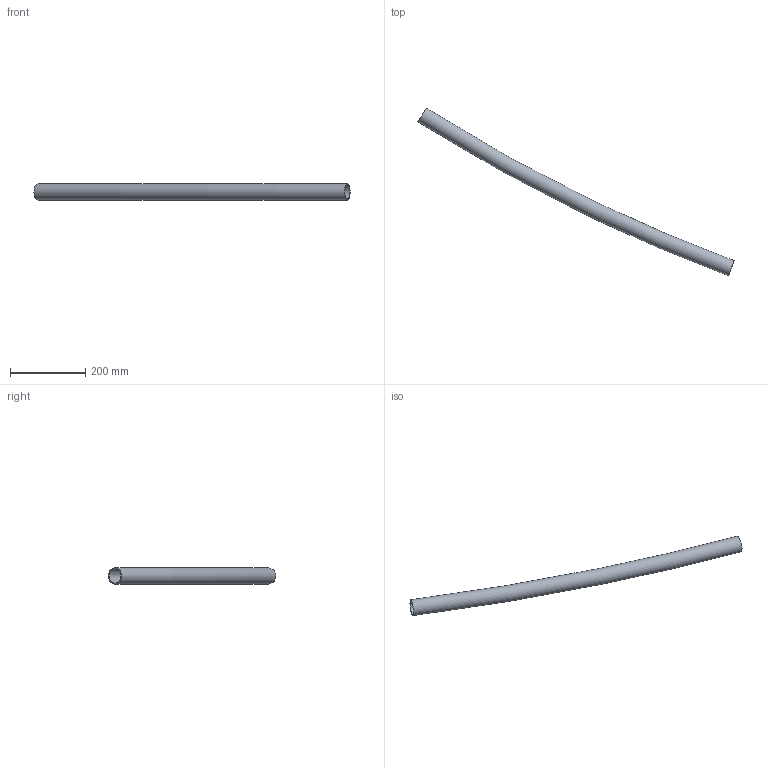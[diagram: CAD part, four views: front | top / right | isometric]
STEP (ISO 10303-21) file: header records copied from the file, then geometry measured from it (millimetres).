
FILE_DESCRIPTION(/* description */ (''),/* implementation_level */ '2;1');
FILE_NAME(/* name */ 'Pos164-Constructie buis 42.4x2.6-S235JRH-3st',/* time_stamp */ '2024-08-06T13:37:44+02:00',/* author */ (''),/* organization */ (''),/* preprocessor_version */ 'ST-DEVELOPER v16.5',/* originating_system */ 'HiCAD 2024 2901.2 Build 361',/* authorisation */ '');
FILE_SCHEMA (('AUTOMOTIVE_DESIGN { 1 0 10303 214 1 1 1 1 }'));
Length unit declared in the file: millimetre
Products named in the file (1): Pos164-Constructie buis 42.4x2.6-S235JRH-3st
Bounding box: 837.68 x 443.99 x 42.4 mm (x, y, z)
Volume: 297721 mm3; surface area: 229666.4 mm2
Topology: 1 solids, 1 shells, 4 faces, 8 edges, 6 vertices
Faces by surface type: torus 2, plane 2
Entity records: 146 total; most frequent: DIRECTION 16, CARTESIAN_POINT 12, PRESENTATION_STYLE_ASSIGNMENT 9, COLOUR_RGB 9, DRAUGHTING_PRE_DEFINED_CURVE_FONT 8, CURVE_STYLE 8, OVER_RIDING_STYLED_ITEM 8, ORIENTED_EDGE 8
